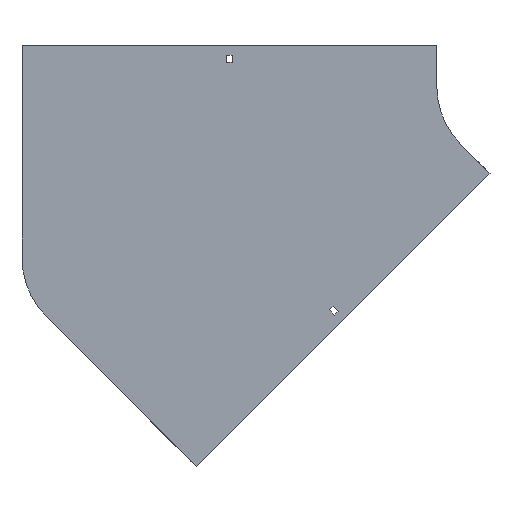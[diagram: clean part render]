
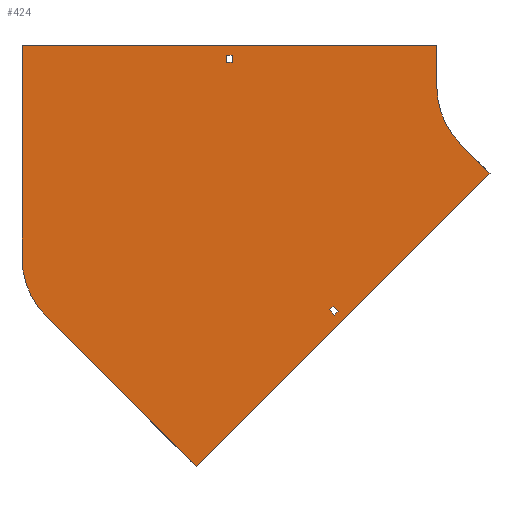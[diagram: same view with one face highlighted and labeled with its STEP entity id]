
A CAD part, front view. The second image highlights one B-rep face of the part: STEP entity #424.
In plain terms, the highlighted planar face has unit normal (0, -1, 0).
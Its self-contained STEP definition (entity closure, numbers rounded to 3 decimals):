
#16 = DIRECTION ( 'NONE',  ( 0., 1., 0. ) ) ;
#41 = CARTESIAN_POINT ( 'NONE',  ( -348.75, 0., 29. ) ) ;
#43 = DIRECTION ( 'NONE',  ( -1., 0., 0. ) ) ;
#46 = CARTESIAN_POINT ( 'NONE',  ( -355.25, 0., 38. ) ) ;
#76 = CARTESIAN_POINT ( 'NONE',  ( -355.25, 0., 29. ) ) ;
#94 = VERTEX_POINT ( 'NONE', #41 ) ;
#148 = EDGE_CURVE ( 'NONE', #1221, #930, #1852, .T. ) ;
#185 = VECTOR ( 'NONE', #1287, 1000. ) ;
#196 = LINE ( 'NONE', #204, #1259 ) ;
#204 = CARTESIAN_POINT ( 'NONE',  ( -355.25, 0., 29. ) ) ;
#236 = ORIENTED_EDGE ( 'NONE', *, *, #1792, .F. ) ;
#247 = VECTOR ( 'NONE', #341, 1000. ) ;
#275 = LINE ( 'NONE', #873, #1280 ) ;
#288 = ORIENTED_EDGE ( 'NONE', *, *, #1779, .F. ) ;
#309 = FACE_BOUND ( 'NONE', #1355, .T. ) ;
#331 = VECTOR ( 'NONE', #1072, 1000. ) ;
#337 = VECTOR ( 'NONE', #1724, 1000. ) ;
#341 = DIRECTION ( 'NONE',  ( -0.707, 0., -0.707 ) ) ;
#343 = CARTESIAN_POINT ( 'NONE',  ( -604., 0., -208.764 ) ) ;
#354 = EDGE_CURVE ( 'NONE', #390, #1821, #1497, .T. ) ;
#382 = EDGE_CURVE ( 'NONE', #1517, #1221, #1024, .T. ) ;
#390 = VERTEX_POINT ( 'NONE', #1944 ) ;
#414 = CARTESIAN_POINT ( 'NONE',  ( -226.097, 0., -267.11 ) ) ;
#423 = CARTESIAN_POINT ( 'NONE',  ( -604., 0., 50. ) ) ;
#424 = ADVANCED_FACE ( 'NONE', ( #309, #465, #780 ), #760, .T. ) ;
#433 = ORIENTED_EDGE ( 'NONE', *, *, #1028, .F. ) ;
#447 = DIRECTION ( 'NONE',  ( 0.707, 0., 0.707 ) ) ;
#465 = FACE_OUTER_BOUND ( 'NONE', #1449, .T. ) ;
#468 = AXIS2_PLACEMENT_3D ( 'NONE', #1251, #1425, #1572 ) ;
#481 = LINE ( 'NONE', #46, #1480 ) ;
#504 = DIRECTION ( 'NONE',  ( 0., 0., -1. ) ) ;
#505 = LINE ( 'NONE', #784, #247 ) ;
#525 = VECTOR ( 'NONE', #704, 1000. ) ;
#548 = VERTEX_POINT ( 'NONE', #794 ) ;
#553 = CARTESIAN_POINT ( 'NONE',  ( -230.694, 0., -271.706 ) ) ;
#557 = AXIS2_PLACEMENT_3D ( 'NONE', #1368, #16, #1213 ) ;
#565 = CARTESIAN_POINT ( 'NONE',  ( -604., 0., -208.764 ) ) ;
#585 = DIRECTION ( 'NONE',  ( -0.707, 0., 0.707 ) ) ;
#627 = CARTESIAN_POINT ( 'NONE',  ( -391.737, 0., -462.448 ) ) ;
#644 = ORIENTED_EDGE ( 'NONE', *, *, #1657, .T. ) ;
#664 = CARTESIAN_POINT ( 'NONE',  ( -100., 0., 50. ) ) ;
#702 = VERTEX_POINT ( 'NONE', #1040 ) ;
#704 = DIRECTION ( 'NONE',  ( 1., 0., 0. ) ) ;
#726 = ORIENTED_EDGE ( 'NONE', *, *, #1625, .F. ) ;
#734 = ORIENTED_EDGE ( 'NONE', *, *, #887, .T. ) ;
#742 = EDGE_CURVE ( 'NONE', #930, #1757, #1324, .T. ) ;
#760 = PLANE ( 'NONE',  #1217 ) ;
#780 = FACE_BOUND ( 'NONE', #1169, .T. ) ;
#784 = CARTESIAN_POINT ( 'NONE',  ( -230.694, 0., -271.706 ) ) ;
#794 = CARTESIAN_POINT ( 'NONE',  ( -35.355, 0., -106.066 ) ) ;
#825 = ORIENTED_EDGE ( 'NONE', *, *, #742, .F. ) ;
#853 = ORIENTED_EDGE ( 'NONE', *, *, #981, .T. ) ;
#873 = CARTESIAN_POINT ( 'NONE',  ( -70.711, 0., -70.711 ) ) ;
#887 = EDGE_CURVE ( 'NONE', #1911, #1435, #481, .T. ) ;
#901 = DIRECTION ( 'NONE',  ( 0., 0., -1. ) ) ;
#908 = CARTESIAN_POINT ( 'NONE',  ( -100., 0., 0. ) ) ;
#930 = VERTEX_POINT ( 'NONE', #343 ) ;
#981 = EDGE_CURVE ( 'NONE', #1809, #1911, #1415, .T. ) ;
#982 = CARTESIAN_POINT ( 'NONE',  ( -604., 0., 50. ) ) ;
#990 = VERTEX_POINT ( 'NONE', #553 ) ;
#1006 = CIRCLE ( 'NONE', #468, 100. ) ;
#1024 = LINE ( 'NONE', #1335, #1817 ) ;
#1028 = EDGE_CURVE ( 'NONE', #1738, #1525, #1162, .T. ) ;
#1036 = VECTOR ( 'NONE', #1463, 1000. ) ;
#1040 = CARTESIAN_POINT ( 'NONE',  ( -224.33, 0., -278.07 ) ) ;
#1057 = VECTOR ( 'NONE', #585, 1000. ) ;
#1072 = DIRECTION ( 'NONE',  ( 0., 0., 1. ) ) ;
#1074 = EDGE_CURVE ( 'NONE', #548, #1517, #1274, .T. ) ;
#1128 = CARTESIAN_POINT ( 'NONE',  ( -35.355, 0., -106.066 ) ) ;
#1148 = CARTESIAN_POINT ( 'NONE',  ( -348.75, 0., 38. ) ) ;
#1162 = LINE ( 'NONE', #664, #185 ) ;
#1169 = EDGE_LOOP ( 'NONE', ( #1363, #236, #726, #1282 ) ) ;
#1202 = CARTESIAN_POINT ( 'NONE',  ( -226.097, 0., -267.11 ) ) ;
#1213 = DIRECTION ( 'NONE',  ( 0., 0., 1. ) ) ;
#1217 = AXIS2_PLACEMENT_3D ( 'NONE', #1815, #1544, #901 ) ;
#1221 = VERTEX_POINT ( 'NONE', #1456 ) ;
#1236 = DIRECTION ( 'NONE',  ( 1., 0., 0. ) ) ;
#1241 = LINE ( 'NONE', #1866, #1460 ) ;
#1251 = CARTESIAN_POINT ( 'NONE',  ( 0., 0., 0. ) ) ;
#1259 = VECTOR ( 'NONE', #43, 1000. ) ;
#1274 = LINE ( 'NONE', #1128, #337 ) ;
#1280 = VECTOR ( 'NONE', #1482, 1000. ) ;
#1282 = ORIENTED_EDGE ( 'NONE', *, *, #354, .F. ) ;
#1287 = DIRECTION ( 'NONE',  ( 0., 0., -1. ) ) ;
#1324 = LINE ( 'NONE', #565, #331 ) ;
#1333 = ORIENTED_EDGE ( 'NONE', *, *, #1394, .F. ) ;
#1335 = CARTESIAN_POINT ( 'NONE',  ( -391.737, 0., -462.448 ) ) ;
#1355 = EDGE_LOOP ( 'NONE', ( #853, #734, #1613, #644 ) ) ;
#1363 = ORIENTED_EDGE ( 'NONE', *, *, #1874, .F. ) ;
#1368 = CARTESIAN_POINT ( 'NONE',  ( -504., 0., -208.764 ) ) ;
#1394 = EDGE_CURVE ( 'NONE', #1705, #548, #275, .T. ) ;
#1397 = ORIENTED_EDGE ( 'NONE', *, *, #382, .F. ) ;
#1406 = VECTOR ( 'NONE', #1574, 1000. ) ;
#1415 = LINE ( 'NONE', #76, #1406 ) ;
#1420 = VECTOR ( 'NONE', #447, 1000. ) ;
#1425 = DIRECTION ( 'NONE',  ( 0., -1., 0. ) ) ;
#1435 = VERTEX_POINT ( 'NONE', #1148 ) ;
#1436 = CARTESIAN_POINT ( 'NONE',  ( -100., 0., 50. ) ) ;
#1449 = EDGE_LOOP ( 'NONE', ( #288, #825, #1459, #1397, #1702, #1333, #1716, #433 ) ) ;
#1450 = CARTESIAN_POINT ( 'NONE',  ( -230.694, 0., -271.706 ) ) ;
#1456 = CARTESIAN_POINT ( 'NONE',  ( -574.711, 0., -279.474 ) ) ;
#1459 = ORIENTED_EDGE ( 'NONE', *, *, #148, .F. ) ;
#1460 = VECTOR ( 'NONE', #504, 1000. ) ;
#1463 = DIRECTION ( 'NONE',  ( 0.707, 0., -0.707 ) ) ;
#1480 = VECTOR ( 'NONE', #1236, 1000. ) ;
#1482 = DIRECTION ( 'NONE',  ( 0.707, 0., -0.707 ) ) ;
#1497 = LINE ( 'NONE', #1202, #1057 ) ;
#1517 = VERTEX_POINT ( 'NONE', #627 ) ;
#1525 = VERTEX_POINT ( 'NONE', #908 ) ;
#1544 = DIRECTION ( 'NONE',  ( 0., -1., 0. ) ) ;
#1572 = DIRECTION ( 'NONE',  ( 0., 0., -1. ) ) ;
#1573 = CARTESIAN_POINT ( 'NONE',  ( -355.25, 0., 38. ) ) ;
#1574 = DIRECTION ( 'NONE',  ( 0., 0., 1. ) ) ;
#1581 = CARTESIAN_POINT ( 'NONE',  ( -70.711, 0., -70.711 ) ) ;
#1589 = LINE ( 'NONE', #423, #525 ) ;
#1613 = ORIENTED_EDGE ( 'NONE', *, *, #1943, .T. ) ;
#1625 = EDGE_CURVE ( 'NONE', #1821, #990, #505, .T. ) ;
#1652 = DIRECTION ( 'NONE',  ( -0.707, 0., 0.707 ) ) ;
#1657 = EDGE_CURVE ( 'NONE', #94, #1809, #196, .T. ) ;
#1674 = EDGE_CURVE ( 'NONE', #1525, #1705, #1006, .T. ) ;
#1702 = ORIENTED_EDGE ( 'NONE', *, *, #1074, .F. ) ;
#1705 = VERTEX_POINT ( 'NONE', #1581 ) ;
#1716 = ORIENTED_EDGE ( 'NONE', *, *, #1674, .F. ) ;
#1724 = DIRECTION ( 'NONE',  ( -0.707, 0., -0.707 ) ) ;
#1738 = VERTEX_POINT ( 'NONE', #1436 ) ;
#1745 = LINE ( 'NONE', #1450, #1036 ) ;
#1757 = VERTEX_POINT ( 'NONE', #982 ) ;
#1779 = EDGE_CURVE ( 'NONE', #1757, #1738, #1589, .T. ) ;
#1792 = EDGE_CURVE ( 'NONE', #990, #702, #1745, .T. ) ;
#1809 = VERTEX_POINT ( 'NONE', #1907 ) ;
#1815 = CARTESIAN_POINT ( 'NONE',  ( 0., 0., 0. ) ) ;
#1817 = VECTOR ( 'NONE', #1652, 1000. ) ;
#1820 = CARTESIAN_POINT ( 'NONE',  ( -224.33, 0., -278.07 ) ) ;
#1821 = VERTEX_POINT ( 'NONE', #414 ) ;
#1852 = CIRCLE ( 'NONE', #557, 100. ) ;
#1866 = CARTESIAN_POINT ( 'NONE',  ( -348.75, 0., 29. ) ) ;
#1874 = EDGE_CURVE ( 'NONE', #702, #390, #1937, .T. ) ;
#1907 = CARTESIAN_POINT ( 'NONE',  ( -355.25, 0., 29. ) ) ;
#1911 = VERTEX_POINT ( 'NONE', #1573 ) ;
#1937 = LINE ( 'NONE', #1820, #1420 ) ;
#1943 = EDGE_CURVE ( 'NONE', #1435, #94, #1241, .T. ) ;
#1944 = CARTESIAN_POINT ( 'NONE',  ( -219.733, 0., -273.474 ) ) ;
